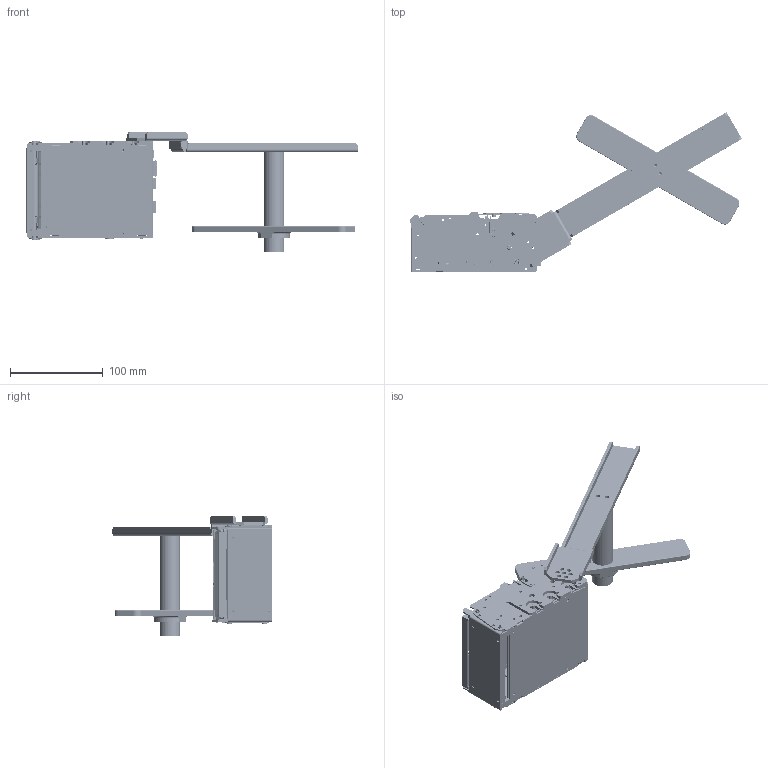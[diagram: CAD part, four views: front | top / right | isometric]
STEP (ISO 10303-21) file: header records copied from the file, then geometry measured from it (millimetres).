
FILE_DESCRIPTION (( 'STEP AP214' ), '1' );
FILE_NAME ('Lemur-Z R 160929.STEP', '2016-09-29T15:01:56', ( '' ), ( '' ), 'SwSTEP 2.0', 'SolidWorks 2016', '' );
FILE_SCHEMA (( 'AUTOMOTIVE_DESIGN' ));
Length unit declared in the file: inch
Products named in the file (1): Lemur-Z R 160929
Bounding box: 358.28 x 172.02 x 130.18 mm (x, y, z)
Surface area: 302705.2 mm2 (no closed solid volume)
Topology: 0 solids, 122 shells, 8000 faces, 20914 edges, 13337 vertices
Faces by surface type: plane 5353, cylinder 1927, bspline 324, cone 173, torus 137, sphere 86
Entity records: 359836 total; most frequent: CARTESIAN_POINT 58081, ORIENTED_EDGE 41354, DIRECTION 39116, EDGE_CURVE 20837, LINE 15780, VECTOR 15780, VERTEX_POINT 13335, AXIS2_PLACEMENT_3D 11668
